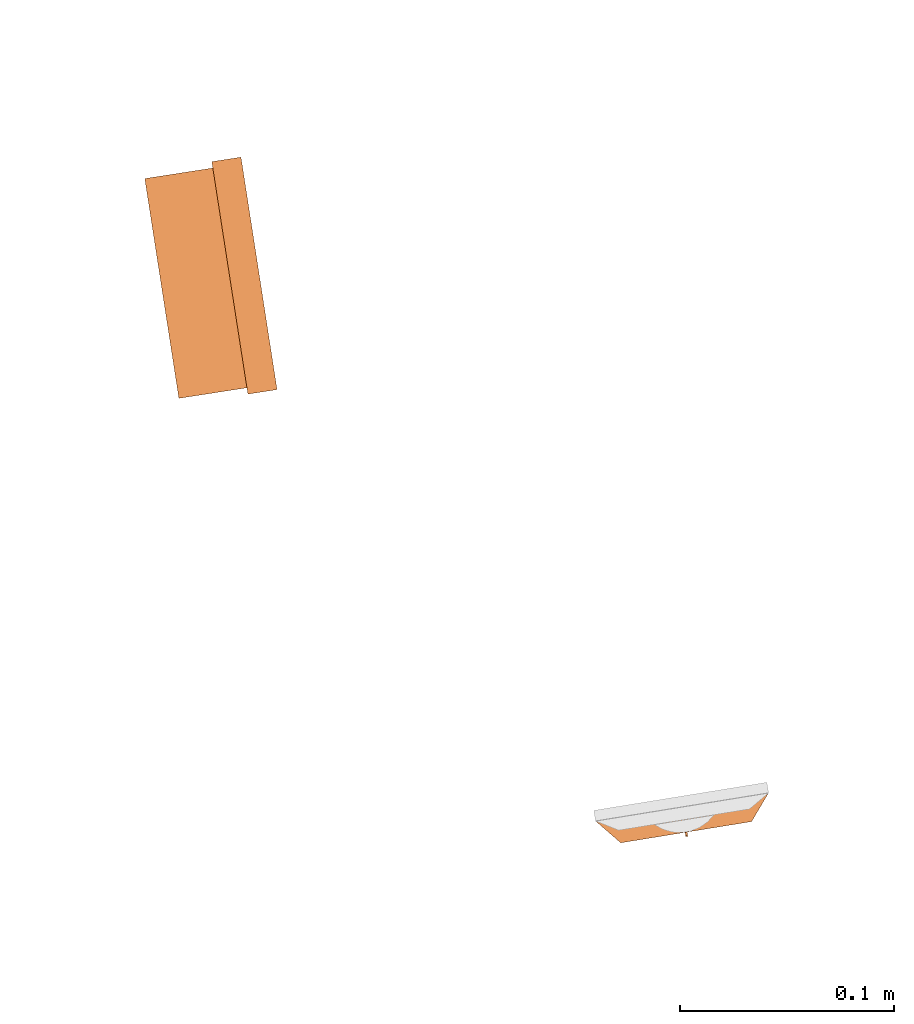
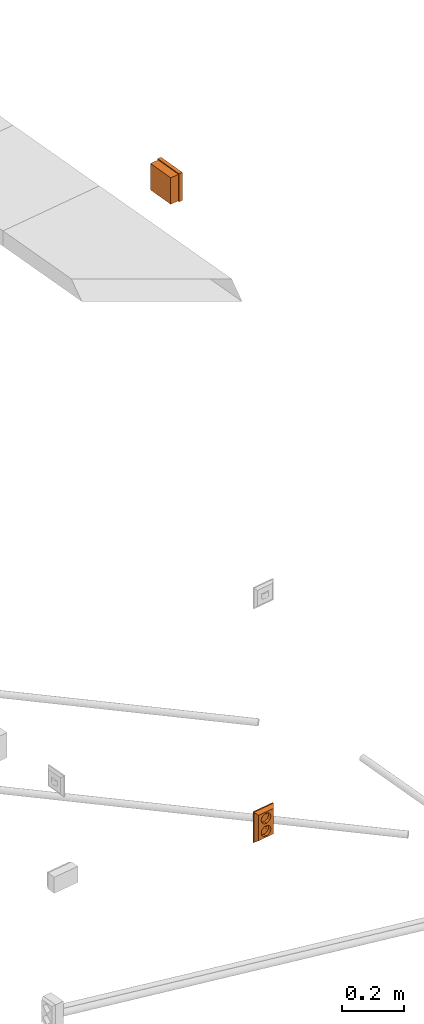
# One storey, part 15 of 33: 2 proxies.
"""IFC2X3 building model written with IfcOpenShell, lengths in millimetres."""

from ifc_helpers import new_model, entity, si_unit, converted_unit, derived_unit, direction, frame, frame_2d, origin, origin_with_axes, origin_2d_with_axis, place, context, subcontext, project, spatial, rectangle, extrude, faceted_brep, source, transform, mapped, material, material_list, type_object, element, save


model = new_model("IFC2X3")

# Units and contexts
plan_context = context("Plan", 3, precision=1e-05, world=origin_with_axes())
model_context = context("Model", 3, precision=0.01, world=origin(), true_north=direction((6.12323399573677e-17, 1.0)))
body_context = subcontext(model_context, "Body", "Model", "MODEL_VIEW")
ifc_project = project(units=[converted_unit("PLANEANGLEUNIT", "DEGREE", entity("IfcPositiveLengthMeasure", 0.0174532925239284), si_unit("PLANEANGLEUNIT", "RADIAN"), dimensions=[0, 0, 0, 0, 0, 0, 0]), si_unit("AREAUNIT", "SQUARE_METRE"), si_unit("LENGTHUNIT", "METRE", prefix="MILLI"), si_unit("MASSUNIT", "GRAM", prefix="KILO"), si_unit("POWERUNIT", "WATT"), si_unit("PRESSUREUNIT", "PASCAL", prefix="KILO"), si_unit("FORCEUNIT", "NEWTON", prefix="KILO"), si_unit("ELECTRICVOLTAGEUNIT", "VOLT"), si_unit("ELECTRICCURRENTUNIT", "AMPERE"), si_unit("THERMODYNAMICTEMPERATUREUNIT", "DEGREE_CELSIUS"), si_unit("TIMEUNIT", "SECOND"), si_unit("VOLUMEUNIT", "CUBIC_METRE"), derived_unit("LINEARVELOCITYUNIT", [(si_unit("LENGTHUNIT", "METRE"), 1), (si_unit("TIMEUNIT", "SECOND"), -1)]), derived_unit("VOLUMETRICFLOWRATEUNIT", [(si_unit("VOLUMEUNIT", "CUBIC_METRE"), 1), (si_unit("TIMEUNIT", "SECOND"), -1)]), derived_unit("THERMALTRANSMITTANCEUNIT", [(si_unit("POWERUNIT", "WATT"), 1), (si_unit("THERMODYNAMICTEMPERATUREUNIT", "KELVIN"), -1), (si_unit("AREAUNIT", "SQUARE_METRE"), -1)]), derived_unit("SOUNDPRESSUREUNIT", [(si_unit("PRESSUREUNIT", "PASCAL"), 1)])], contexts=[model_context, plan_context])

# Site, building, storey
site_placement = place(None, frame((-0.219946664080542, 0.12226179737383, 0.0), z_axis=(0.0, 0.0, 1.0), x_axis=(-0.160236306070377, 0.987078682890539, 0.0)))
site = spatial("IfcSite", under=ifc_project, at=site_placement, Name="Default", CompositionType="ELEMENT")
building_placement = place(site_placement, origin_with_axes())
building = spatial("IfcBuilding", under=site, at=building_placement, CompositionType="ELEMENT")
storey_placement = place(building_placement, frame((0.0, 0.0, 59000.0), z_axis=(0.0, 0.0, 1.0), x_axis=(1.0, 0.0, 0.0)))
storey = spatial("IfcBuildingStorey", under=building, at=storey_placement, Name="Nivå F", CompositionType="ELEMENT", Elevation=59000.0)

# Proxies
ifc_material_1 = material(Name="Material3")
ifc_material_2 = material(Name="Material2")
ifc_material_3 = material(Name="Material1")
ifc_material_list = material_list([ifc_material_1, ifc_material_2, ifc_material_3])
building_element_proxy_type_1 = type_object("IfcBuildingElementProxyType", Name="Dobbel stikk vegg innf 1½ boks 2P+J vert PH:RECESSED-EARTHED-SOCKET-2(VER)", PredefinedType="NOTDEFINED", material=ifc_material_list)
shared_shape_1 = source(origin(), body_context, "Body", "Brep", [
    faceted_brep([(0.499999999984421, 17.9077381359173, -43.2900460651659), (0.499999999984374, 17.4980087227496, -43.5927590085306), (0.499999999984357, 17.0, -43.6999999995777), (0.499999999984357, 5.0, -43.6999999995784), (0.499999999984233, 5.0, -44.4999999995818), (0.499999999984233, 17.0, -44.4999999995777), (0.499999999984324, 18.4212520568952, -43.9112981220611), (0.499999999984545, 19.0099539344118, -42.490046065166), (0.499999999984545, 13.0337787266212, -42.4900460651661), (0.499999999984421, 13.0337787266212, -43.2900460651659), (-0.500000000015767, 5.0, -44.4999999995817), (-0.500000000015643, 5.0, -43.6999999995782), (-0.500000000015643, 17.0, -43.6999999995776), (-0.500000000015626, 17.4980087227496, -43.5927590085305), (-0.500000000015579, 17.9077381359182, -43.2900460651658), (-0.500000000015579, 13.0337787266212, -43.2900460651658), (-0.500000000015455, 13.0337787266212, -42.4900460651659), (-0.500000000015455, 19.0099539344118, -42.4900460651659), (-0.500000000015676, 18.4212520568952, -43.911298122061), (-0.500000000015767, 17.0, -44.4999999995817)], [[[0, 1, 2, 3, 4, 5, 6, 7, 8, 9]], [[10, 11, 12, 13, 14, 15, 16, 17, 18, 19]], [[10, 19, 5, 4]], [[11, 10, 4, 3]], [[12, 11, 3, 2]], [[2, 1, 13, 12]], [[0, 14, 13, 1]], [[15, 14, 0, 9]], [[16, 15, 9, 8]], [[17, 16, 8, 7]], [[17, 7, 6, 18]], [[6, 5, 19, 18]]]),
    faceted_brep([(-0.500000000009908, 17.9240022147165, -6.72220296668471), (-0.500000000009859, 17.5079457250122, -6.41055048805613), (-0.500000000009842, 17.0, -6.29999999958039), (-0.500000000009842, 5.0, -6.29999999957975), (-0.500000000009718, 5.0, -5.49999999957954), (-0.500000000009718, 17.0, -5.49999999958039), (-0.50000000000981, 18.429913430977, -6.09228953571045), (-0.500000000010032, 19.022202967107, -7.52220296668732), (-0.500000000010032, 13.0667616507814, -7.52220296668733), (-0.500000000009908, 13.0667616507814, -6.7222029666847), (0.499999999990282, 5.0, -5.4999999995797), (0.499999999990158, 5.0, -6.29999999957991), (0.499999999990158, 17.0, -6.29999999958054), (0.499999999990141, 17.5079457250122, -6.41055048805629), (0.499999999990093, 17.9240022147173, -6.72220296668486), (0.499999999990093, 13.0667616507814, -6.72220296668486), (0.499999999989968, 13.0667616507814, -7.52220296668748), (0.499999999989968, 19.022202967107, -7.52220296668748), (0.49999999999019, 18.429913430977, -6.09228953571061), (0.499999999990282, 17.0, -5.4999999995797)], [[[0, 1, 2, 3, 4, 5, 6, 7, 8, 9]], [[10, 11, 12, 13, 14, 15, 16, 17, 18, 19]], [[5, 19, 18, 6]], [[18, 17, 7, 6]], [[8, 7, 17, 16]], [[9, 8, 16, 15]], [[0, 9, 15, 14]], [[14, 13, 1, 0]], [[12, 2, 1, 13]], [[3, 2, 12, 11]], [[4, 3, 11, 10]], [[5, 4, 10, 19]]]),
    faceted_brep([(-0.500000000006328, 18.4212520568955, 6.0887018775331), (-0.500000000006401, 17.0, 5.5000000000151), (-0.500000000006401, 5.0, 5.5000000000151), (-0.500000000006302, 5.0, 6.30000000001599), (-0.500000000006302, 17.0, 6.30000000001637), (-0.500000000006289, 17.4980087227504, 6.40724099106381), (-0.500000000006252, 17.9077381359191, 6.70995393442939), (-0.500000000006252, 13.0337787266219, 6.70995393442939), (-0.500000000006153, 13.0337787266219, 7.50995393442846), (-0.500000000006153, 19.0099539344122, 7.50995393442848), (0.499999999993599, 5.0, 5.50000000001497), (0.499999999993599, 17.0, 5.50000000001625), (0.499999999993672, 18.4212520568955, 6.08870187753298), (0.499999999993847, 19.0099539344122, 7.50995393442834), (0.499999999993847, 13.0337787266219, 7.50995393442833), (0.499999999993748, 13.0337787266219, 6.70995393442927), (0.499999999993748, 17.9077381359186, 6.70995393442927), (0.499999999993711, 17.4980087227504, 6.40724099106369), (0.499999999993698, 17.0, 6.30000000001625), (0.499999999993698, 5.0, 6.30000000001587)], [[[0, 1, 2, 3, 4, 5, 6, 7, 8, 9]], [[10, 11, 12, 13, 14, 15, 16, 17, 18, 19]], [[2, 1, 11, 10]], [[3, 2, 10, 19]], [[4, 3, 19, 18]], [[18, 17, 5, 4]], [[16, 6, 5, 17]], [[7, 6, 16, 15]], [[8, 7, 15, 14]], [[9, 8, 14, 13]], [[9, 13, 12, 0]], [[12, 11, 1, 0]]]),
    faceted_brep([(-0.50000000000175, 17.9240022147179, 43.2777970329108), (-0.500000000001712, 17.5079457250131, 43.5894495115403), (-0.500000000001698, 17.0, 43.7000000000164), (-0.500000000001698, 5.0, 43.7000000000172), (-0.5000000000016, 5.0, 44.5000000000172), (-0.5000000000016, 17.0, 44.5000000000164), (-0.500000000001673, 18.4299134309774, 43.9077104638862), (-0.500000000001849, 19.0222029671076, 42.4777970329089), (-0.500000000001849, 13.0667616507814, 42.4777970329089), (-0.50000000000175, 13.0667616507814, 43.2777970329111), (0.4999999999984, 5.0, 44.5000000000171), (0.499999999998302, 5.0, 43.7000000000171), (0.499999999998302, 17.0, 43.7000000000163), (0.499999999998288, 17.5079457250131, 43.5894495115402), (0.49999999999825, 17.9240022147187, 43.277797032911), (0.49999999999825, 13.0667616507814, 43.277797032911), (0.499999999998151, 13.0667616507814, 42.4777970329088), (0.499999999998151, 19.0222029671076, 42.4777970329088), (0.499999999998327, 18.4299134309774, 43.9077104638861), (0.4999999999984, 17.0, 44.5000000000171)], [[[0, 1, 2, 3, 4, 5, 6, 7, 8, 9]], [[10, 11, 12, 13, 14, 15, 16, 17, 18, 19]], [[5, 19, 18, 6]], [[18, 17, 7, 6]], [[8, 7, 17, 16]], [[9, 8, 16, 15]], [[0, 9, 15, 14]], [[14, 13, 1, 0]], [[12, 2, 1, 13]], [[3, 2, 12, 11]], [[4, 3, 11, 10]], [[5, 4, 10, 19]]]),
    faceted_brep([(-8.89218180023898, 5.50000000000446, -26.4355061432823), (-10.0, 5.50000000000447, -27.5433243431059), (-11.2716621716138, 5.50000000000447, -26.2716621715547), (-12.5433243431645, 5.50000000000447, -25.0), (-11.107818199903, 5.50000000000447, -23.5644938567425), (-10.0, 5.50000000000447, -22.456675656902), (-8.72833782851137, 5.50000000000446, -23.7283378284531), (-7.45667565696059, 5.50000000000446, -25.0), (-7.45667565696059, 5.0, -25.0), (-8.72833782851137, 5.0, -23.7283378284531), (-10.0, 5.0, -22.456675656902), (-11.2716621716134, 5.0, -23.7283378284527), (-12.5433243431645, 5.0, -25.0), (-11.2716621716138, 5.0, -26.2716621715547), (-10.0, 5.0, -27.5433243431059), (-8.72833782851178, 5.0, -26.2716621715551)], [[[0, 1, 2, 3, 4, 5, 6, 7]], [[8, 9, 10, 11, 12, 13, 14, 15]], [[11, 10, 5, 4, 3, 12]], [[13, 12, 3, 2, 1, 14]], [[15, 14, 1, 0, 7, 8]], [[9, 8, 7, 6, 5, 10]]]),
    faceted_brep([(12.5429237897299, 5.0, -25.0), (11.2714618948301, 5.0, -23.7285381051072), (10.0, 5.0, -22.457076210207), (8.72853810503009, 5.0, -23.7285381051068), (7.4570762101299, 5.0, -25.0), (8.72853810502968, 5.0, -26.2714618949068), (10.0, 5.0, -27.542923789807), (11.2714618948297, 5.0, -26.2714618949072), (11.1077309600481, 5.50000000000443, -23.5648071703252), (12.5429237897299, 5.50000000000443, -25.0), (11.2714618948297, 5.50000000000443, -26.2714618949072), (10.0, 5.50000000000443, -27.542923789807), (8.89226903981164, 5.50000000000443, -26.4351928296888), (7.4570762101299, 5.50000000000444, -25.0), (8.72853810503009, 5.50000000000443, -23.7285381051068), (10.0, 5.50000000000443, -22.457076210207)], [[[0, 1, 2, 3, 4, 5, 6, 7]], [[8, 9, 10, 11, 12, 13, 14, 15]], [[15, 14, 13, 4, 3, 2]], [[13, 12, 11, 6, 5, 4]], [[11, 10, 9, 0, 7, 6]], [[9, 8, 15, 2, 1, 0]]]),
    faceted_brep([(-7.54751482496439, 5.50000000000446, 25.0), (-8.9121454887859, 5.50000000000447, 23.6353693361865), (-10.0, 5.50000000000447, 22.5475148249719), (-11.2262425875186, 5.50000000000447, 23.7737574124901), (-12.4524851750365, 5.50000000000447, 25.0), (-11.0878545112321, 5.50000000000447, 26.3646306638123), (-10.0, 5.50000000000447, 27.452485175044), (-8.77375741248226, 5.50000000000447, 26.2262425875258), (-11.2262425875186, 5.0, 23.7737574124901), (-10.0, 5.0, 22.5475148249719), (-8.77375741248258, 5.0, 23.7737574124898), (-7.54751482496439, 5.0, 25.0), (-8.77375741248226, 5.0, 26.2262425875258), (-10.0, 5.0, 27.452485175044), (-11.2262425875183, 5.0, 26.2262425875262), (-12.4524851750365, 5.0, 25.0)], [[[0, 1, 2, 3, 4, 5, 6, 7]], [[8, 9, 10, 11, 12, 13, 14, 15]], [[14, 13, 6, 5, 4, 15]], [[8, 15, 4, 3, 2, 9]], [[10, 9, 2, 1, 0, 11]], [[12, 11, 0, 7, 6, 13]]]),
    faceted_brep([(8.76085027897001, 5.0, 23.7608502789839), (10.0, 5.0, 22.5217005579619), (11.2391497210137, 5.0, 23.7608502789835), (12.4782994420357, 5.0, 25.0), (11.239149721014, 5.0, 26.2391497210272), (10.0, 5.0, 27.4782994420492), (8.76085027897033, 5.0, 26.2391497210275), (7.52170055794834, 5.0, 25.0), (11.2391497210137, 5.50000000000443, 23.7608502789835), (10.0, 5.50000000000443, 22.5217005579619), (8.90643522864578, 5.50000000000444, 23.6152653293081), (7.52170055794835, 5.50000000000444, 25.0), (8.76085027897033, 5.50000000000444, 26.2391497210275), (10.0, 5.50000000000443, 27.4782994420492), (11.0935647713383, 5.50000000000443, 26.384734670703), (12.4782994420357, 5.50000000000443, 25.0)], [[[0, 1, 2, 3, 4, 5, 6, 7]], [[8, 9, 10, 11, 12, 13, 14, 15]], [[13, 12, 11, 7, 6, 5]], [[11, 10, 9, 1, 0, 7]], [[9, 8, 15, 3, 2, 1]], [[15, 14, 13, 5, 4, 3]]]),
    faceted_brep([(41.0, 5.0, -60.0), (19.318516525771, 5.0, -30.1763809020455), (17.3205080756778, 5.0, -35.0), (20.0, 5.0, -25.0), (14.1421356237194, 5.0, -39.1421356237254), (10.0, 5.0, -42.3205080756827), (5.17638090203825, 5.0, -44.3185165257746), (0.0, 5.0, -45.0), (19.3185165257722, 5.0, -19.8236190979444), (19.3185165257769, 5.0, 19.8236190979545), (-41.0, 5.0, -60.0), (41.0, 5.0, 60.0), (20.0, 5.0, 25.0), (19.3185165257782, 5.0, 30.1763809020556), (17.3205080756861, 5.0, 35.0), (14.1421356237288, 5.0, 39.1421356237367), (10.0, 5.0, 42.320508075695), (5.17638090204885, 5.0, 44.3185165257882), (0.0, 5.0, 45.0), (-41.0, 5.0, 60.0), (-19.3185165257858, 5.0, 19.8236190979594), (-20.0, 5.0, 25.0), (-5.17638090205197, 5.0, 44.3185165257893), (-10.0, 5.0, 42.3205080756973), (-14.1421356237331, 5.0, 39.14213562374), (-17.3205080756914, 5.0, 35.0), (-19.3185165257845, 5.0, 30.17638090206), (17.3205080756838, 5.0, 15.0), (17.3205080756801, 5.0, -15.0), (14.1421356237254, 5.0, 10.8578643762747), (14.1421356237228, 5.0, -10.8578643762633), (10.0, 5.0, 7.67949192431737), (10.0, 5.0, -7.67949192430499), (5.17638090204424, 5.0, 5.68148347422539), (5.17638090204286, 5.0, -5.68148347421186), (0.0, 5.0, -5.0), (0.0, 5.0, 5.0), (-5.17638090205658, 5.0, 5.68148347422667), (-5.17638090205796, 5.0, -5.68148347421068), (-10.0, 5.0, -7.67949192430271), (-10.0, 5.0, 7.67949192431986), (-14.1421356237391, 5.0, -10.8578643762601), (-14.1421356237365, 5.0, 10.8578643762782), (-17.3205080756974, 5.0, -15.0), (-17.3205080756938, 5.0, 15.0), (-19.3185165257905, 5.0, -19.82361909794), (-20.0, 5.0, -25.0), (-5.17638090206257, 5.0, -44.3185165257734), (-10.0, 5.0, -42.3205080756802), (-14.1421356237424, 5.0, -39.1421356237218), (-17.3205080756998, 5.0, -35.0), (-19.3185165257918, 5.0, -30.1763809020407), (-31.0, 17.0, -50.0), (-19.3185165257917, 17.0, -30.1763809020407), (-17.3205080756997, 17.0, -35.0), (-20.0, 17.0, -25.0), (-14.1421356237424, 17.0, -39.1421356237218), (-10.0, 17.0, -42.3205080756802), (-5.17638090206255, 17.0, -44.3185165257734), (0.0, 17.0, -45.0), (-19.3185165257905, 17.0, -19.82361909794), (-19.3185165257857, 17.0, 19.8236190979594), (31.0, 17.0, -50.0), (-31.0, 17.0, 50.0), (-20.0, 17.0, 25.0), (-19.3185165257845, 17.0, 30.17638090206), (-17.3205080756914, 17.0, 35.0), (-14.1421356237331, 17.0, 39.14213562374), (-10.0, 17.0, 42.3205080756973), (-5.17638090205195, 17.0, 44.3185165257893), (0.0, 17.0, 45.0), (31.0, 17.0, 50.0), (5.17638090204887, 17.0, 44.3185165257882), (10.0, 17.0, 42.320508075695), (14.1421356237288, 17.0, 39.1421356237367), (17.3205080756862, 17.0, 35.0), (19.3185165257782, 17.0, 30.1763809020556), (20.0, 17.0, 25.0), (19.318516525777, 17.0, 19.8236190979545), (5.17638090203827, 17.0, -44.3185165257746), (10.0, 17.0, -42.3205080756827), (14.1421356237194, 17.0, -39.1421356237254), (17.3205080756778, 17.0, -35.0), (19.318516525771, 17.0, -30.1763809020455), (20.0, 17.0, -25.0), (19.3185165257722, 17.0, -19.8236190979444), (17.3205080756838, 17.0, 15.0), (-17.3205080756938, 17.0, 15.0), (-17.3205080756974, 17.0, -15.0), (-14.1421356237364, 17.0, 10.8578643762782), (-14.1421356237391, 17.0, -10.8578643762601), (-10.0, 17.0, 7.67949192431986), (-10.0, 17.0, -7.67949192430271), (-5.17638090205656, 17.0, 5.68148347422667), (-5.17638090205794, 17.0, -5.68148347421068), (0.0, 17.0, -5.0), (0.0, 17.0, 5.0), (5.17638090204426, 17.0, 5.68148347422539), (5.17638090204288, 17.0, -5.68148347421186), (10.0, 17.0, -7.67949192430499), (10.0, 17.0, 7.67949192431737), (14.1421356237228, 17.0, -10.8578643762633), (14.1421356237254, 17.0, 10.8578643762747), (17.3205080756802, 17.0, -15.0)], [[[0, 1, 2]], [[1, 0, 3]], [[0, 2, 4]], [[4, 5, 0]], [[5, 6, 0]], [[0, 6, 7]], [[8, 3, 0]], [[8, 0, 9]], [[7, 10, 0]], [[0, 11, 9]], [[11, 12, 9]], [[12, 11, 13]], [[13, 11, 14]], [[15, 14, 11]], [[15, 11, 16]], [[17, 16, 11]], [[11, 18, 17]], [[18, 11, 19]], [[20, 19, 10]], [[20, 21, 19]], [[22, 18, 19]], [[23, 22, 19]], [[19, 24, 23]], [[24, 19, 25]], [[26, 25, 19]], [[26, 19, 21]], [[27, 8, 9]], [[27, 28, 8]], [[27, 29, 28]], [[28, 29, 30]], [[29, 31, 30]], [[32, 30, 31]], [[31, 33, 32]], [[32, 33, 34]], [[35, 34, 33]], [[33, 36, 35]], [[36, 37, 35]], [[35, 37, 38]], [[39, 38, 37]], [[37, 40, 39]], [[41, 39, 40]], [[40, 42, 41]], [[41, 42, 43]], [[42, 44, 43]], [[44, 45, 43]], [[20, 45, 44]], [[10, 45, 20]], [[46, 45, 10]], [[7, 47, 10]], [[47, 48, 10]], [[49, 10, 48]], [[10, 49, 50]], [[10, 50, 51]], [[51, 46, 10]], [[52, 53, 54]], [[53, 52, 55]], [[52, 54, 56]], [[56, 57, 52]], [[57, 58, 52]], [[52, 58, 59]], [[60, 55, 52]], [[52, 61, 60]], [[59, 62, 52]], [[61, 52, 63]], [[63, 64, 61]], [[64, 63, 65]], [[65, 63, 66]], [[67, 66, 63]], [[67, 63, 68]], [[69, 68, 63]], [[63, 70, 69]], [[70, 63, 71]], [[72, 70, 71]], [[73, 72, 71]], [[71, 74, 73]], [[74, 71, 75]], [[76, 75, 71]], [[76, 71, 77]], [[78, 77, 71]], [[78, 71, 62]], [[59, 79, 62]], [[79, 80, 62]], [[81, 62, 80]], [[62, 81, 82]], [[62, 82, 83]], [[83, 84, 62]], [[84, 85, 62]], [[62, 85, 78]], [[86, 78, 85]], [[61, 87, 60]], [[88, 60, 87]], [[87, 89, 88]], [[88, 89, 90]], [[89, 91, 90]], [[92, 90, 91]], [[91, 93, 92]], [[92, 93, 94]], [[95, 94, 93]], [[93, 96, 95]], [[96, 97, 95]], [[95, 97, 98]], [[99, 98, 97]], [[97, 100, 99]], [[101, 99, 100]], [[100, 102, 101]], [[101, 102, 103]], [[102, 86, 103]], [[85, 103, 86]], [[10, 52, 62, 0]], [[0, 62, 71, 11]], [[11, 71, 63, 19]], [[19, 63, 52, 10]], [[64, 21, 20, 61]], [[61, 20, 44, 87]], [[91, 89, 42, 40]], [[42, 89, 87, 44]], [[93, 91, 40, 37]], [[93, 37, 36, 96]], [[96, 36, 33, 97]], [[97, 33, 31, 100]], [[86, 102, 29, 27]], [[29, 102, 100, 31]], [[78, 86, 27, 9]], [[78, 9, 12, 77]], [[77, 12, 13, 76]], [[76, 13, 14, 75]], [[73, 74, 15, 16]], [[15, 74, 75, 14]], [[72, 73, 16, 17]], [[72, 17, 18, 70]], [[70, 18, 22, 69]], [[69, 22, 23, 68]], [[66, 67, 24, 25]], [[24, 67, 68, 23]], [[65, 66, 25, 26]], [[65, 26, 21, 64]], [[55, 46, 51, 53]], [[53, 51, 50, 54]], [[57, 56, 49, 48]], [[49, 56, 54, 50]], [[58, 57, 48, 47]], [[58, 47, 7, 59]], [[59, 7, 6, 79]], [[79, 6, 5, 80]], [[82, 81, 4, 2]], [[4, 81, 80, 5]], [[83, 82, 2, 1]], [[83, 1, 3, 84]], [[84, 3, 8, 85]], [[85, 8, 28, 103]], [[99, 101, 30, 32]], [[30, 101, 103, 28]], [[98, 99, 32, 34]], [[98, 34, 35, 95]], [[95, 35, 38, 94]], [[94, 38, 39, 92]], [[88, 90, 41, 43]], [[41, 90, 92, 39]], [[60, 88, 43, 45]], [[60, 45, 46, 55]]]),
    faceted_brep([(-41.0, 0.0, -60.0), (41.0, 0.0, -60.0), (41.0, 0.0, 60.0), (-41.0, 0.0, 60.0), (-41.0, 5.0, -60.0), (-41.0, 5.0, 60.0), (41.0, 5.0, 60.0), (41.0, 5.0, -60.0)], [[[0, 1, 2, 3]], [[4, 5, 6, 7]], [[1, 0, 4, 7]], [[2, 1, 7, 6]], [[3, 2, 6, 5]], [[0, 3, 5, 4]]]),
])
proxy_1_placement = place(storey_placement, frame((770852.619644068, -505006.233374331, 200.0), z_axis=(0.0, 0.0, 1.0), x_axis=(0.0, 1.0, 0.0)))
element("IfcBuildingElementProxy", 1, at=proxy_1_placement, inside=storey, type_object=building_element_proxy_type_1, material=ifc_material_list, Name="Dobbel stikk vegg innf 1½ boks 2P+J vert PH:RECESSED-EARTHED-SOCKET-2(VER)", ObjectType="Dobbel stikk vegg innf 1½ boks 2P+J vert PH:RECESSED-EARTHED-SOCKET-2(VER)", context=body_context, shape_type="MappedRepresentation", body=[
    mapped(shared_shape_1, transform((0.0, 0.0, 0.0), scale=1.0)),
])
ifc_material_4 = material(Name="<Unnamed>")
building_element_proxy_type_2 = type_object("IfcBuildingElementProxyType", Name="1612510-0001:Junction box1", PredefinedType="NOTDEFINED", material=ifc_material_4)
shared_shape_2 = source(origin(), body_context, "Body", "SweptSolid", [
    extrude(rectangle(XDim=110.0, YDim=13.8000001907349, at=frame_2d((0.0, 2.22044604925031e-15), x_axis=(1.0, 0.0))), frame((0.0, 39.1000008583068, -55.0)), (0.0, 0.0, 1.0), 110.0),
    extrude(rectangle(XDim=104.0, YDim=32.2000007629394, at=origin_2d_with_axis()), frame((0.0, 16.1000003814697, -52.0)), (0.0, 0.0, 1.0), 104.0),
])
proxy_2_placement = place(storey_placement, frame((771125.876245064, -504804.970846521, 2650.0), z_axis=(0.0, 0.0, 1.0), x_axis=(-0.999975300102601, 0.00702845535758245, 0.0)))
element("IfcBuildingElementProxy", 2, at=proxy_2_placement, inside=storey, type_object=building_element_proxy_type_2, material=ifc_material_4, Name="1612510-0001:Junction box1", ObjectType="1612510-0001:Junction box1", context=body_context, shape_type="MappedRepresentation", body=[
    mapped(shared_shape_2, transform((0.0, 0.0, 0.0), scale=1.0)),
])

save(model, "model.ifc")
